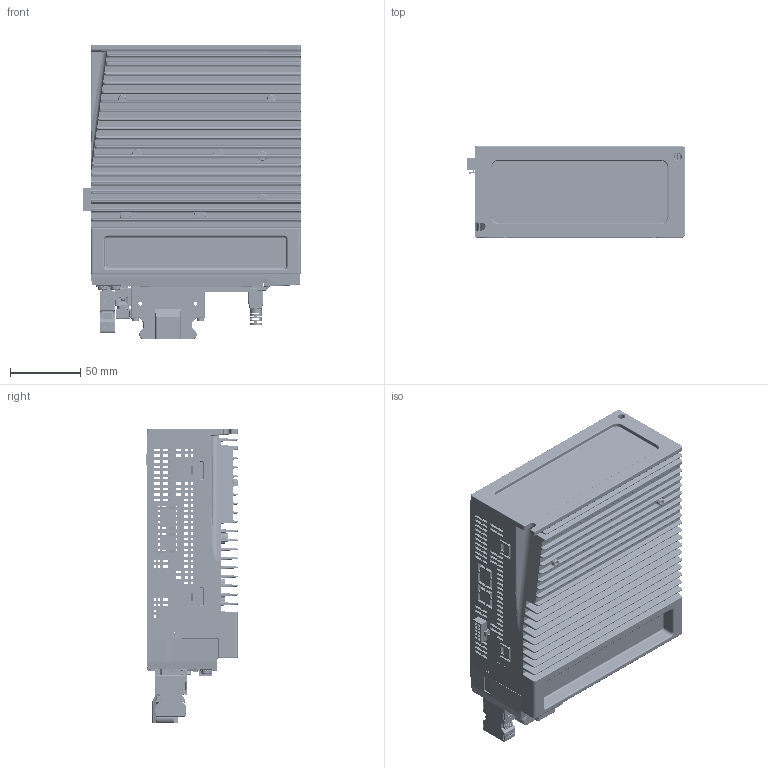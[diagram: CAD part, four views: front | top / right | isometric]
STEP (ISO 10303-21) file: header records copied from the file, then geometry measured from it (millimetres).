
FILE_DESCRIPTION((''),'2;1');
FILE_NAME('M3AC_ECX_750W_ASM','2025-03-20T15:41:02',('ms27526'),(''),'CREO PARAMETRIC BY PTC INC, 2018100','CREO PARAMETRIC BY PTC INC, 2018100','');
FILE_SCHEMA(('CONFIG_CONTROL_DESIGN'));
Products named in the file (44): M2E554451019M2E; 4219122000975_1453; SVAC600; M3AC_ECX_750W_1_ASM; 700; 800; 600; M2E545991019-M2E_ASM; USB; 000; 3698201102252750W000; 2257000; BOARD; 514697808; J1_ASM; 514708608; J3_ASM; PCB_ASM; 4713101003259-A3_0313_ASM; BOARD_1_1; 6361-08FZXXDXMRX_1_1; J9_ASM_1_ASM_1_ASM; 5938414592_1_1; J8_ASM_1_ASM_1_ASM; 5938414976_1_1; J6_ASM_1_ASM_1_ASM; SHIELDING_2_1; INSULATOR_1_1; INSULATOR_2_1_1; 7499021125_ASM_1_ASM_1_ASM; J10_ASM_1_ASM_1_ASM; MINI-5PIN90_1_0001_1_1; 4718405010429_ASM_1_ASM_1_ASM; J4_ASM_1_ASM_1_ASM; PCB_ASM_1_ASM_1_ASM; 4713101005238-A0-241227_ASM_1_A_ASM; R_1; 200WEC_ASM_1_ASM; 200WR_ASM; R0001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
Assembly tree (46 placements, depth 8):
  M3AC_ECX_750W_ASM
    M3AC_ECX_750W_1_ASM
      M2E554451019M2E
      4219122000975_1453
      SVAC600
    M2E545991019-M2E_ASM
      700
      800
      600
    USB
    000  x2
    3698201102252750W000
    2257000
    4713101003259-A3_0313_ASM
      PCB_ASM
        BOARD
        J1_ASM
          514697808
        J3_ASM
          514708608
    200WR_ASM
      200WEC_ASM_1_ASM
        4713101005238-A0-241227_ASM_1_A_ASM
          PCB_ASM_1_ASM_1_ASM
            BOARD_1_1
            J9_ASM_1_ASM_1_ASM
              6361-08FZXXDXMRX_1_1
            J8_ASM_1_ASM_1_ASM
              5938414592_1_1
            J6_ASM_1_ASM_1_ASM
              5938414976_1_1
            J10_ASM_1_ASM_1_ASM
              7499021125_ASM_1_ASM_1_ASM
                SHIELDING_2_1
                INSULATOR_1_1
                INSULATOR_2_1_1  x2
            J4_ASM_1_ASM_1_ASM
              4718405010429_ASM_1_ASM_1_ASM
                MINI-5PIN90_1_0001_1_1
        R_1
    R0001
    0002
    STO
    0003  x2
Bounding box: 155.26 x 65.1 x 210.3 mm (x, y, z)
Volume: 445849 mm3; surface area: 383661.1 mm2
Topology: 22 solids, 102 shells, 17913 faces, 50912 edges, 33065 vertices
Faces by surface type: plane 12754, cylinder 4088, bspline 562, extrusion 208, torus 142, cone 99, sphere 60
Entity records: 612944 total; most frequent: CARTESIAN_POINT 150439, ORIENTED_EDGE 99197, DIRECTION 89846, EDGE_CURVE 50368, VECTOR 38752, LINE 38544, VERTEX_POINT 32753, AXIS2_PLACEMENT_3D 25547
